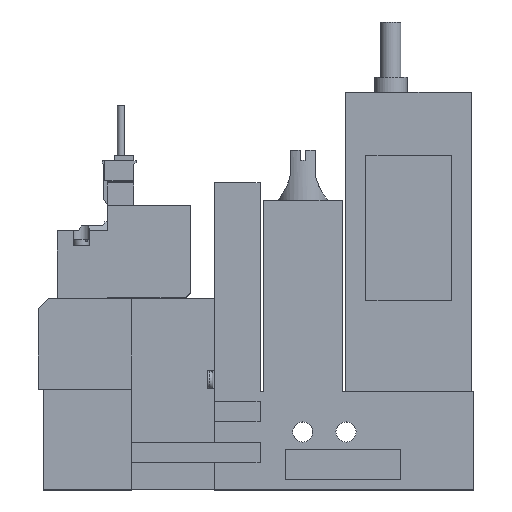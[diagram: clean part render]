
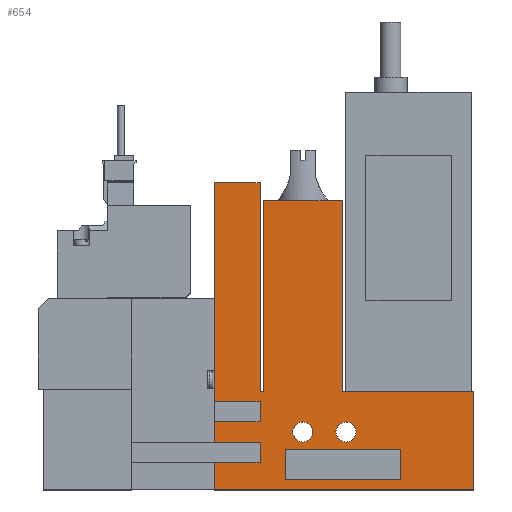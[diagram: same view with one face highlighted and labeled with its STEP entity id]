
A CAD part, top view. The second image highlights one B-rep face of the part: STEP entity #654.
In plain terms, the highlighted planar face has unit normal (0, 0, 1).
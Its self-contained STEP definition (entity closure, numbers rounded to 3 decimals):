
#654=ADVANCED_FACE('',(#1396,#1397,#1398,#1399),#1400,.T.);
#1396=FACE_OUTER_BOUND('',#2182,.T.);
#1397=FACE_BOUND('',#2183,.T.);
#1398=FACE_BOUND('',#2184,.T.);
#1399=FACE_BOUND('',#2185,.T.);
#1400=PLANE('',#2186);
#2182=EDGE_LOOP('',(#4893,#4894,#4895,#4896,#4897,#4898,#4899,#4900,#4901,#4902,#4903,#4904,#4905,#4906,#4907,#4908,#4909,#4910));
#2183=EDGE_LOOP('',(#4911,#4912,#4913,#4914));
#2184=EDGE_LOOP('',(#4915));
#2185=EDGE_LOOP('',(#4916));
#2186=AXIS2_PLACEMENT_3D('',#4917,#4918,#4919);
#4893=ORIENTED_EDGE('',*,*,#5993,.T.);
#4894=ORIENTED_EDGE('',*,*,#5994,.T.);
#4895=ORIENTED_EDGE('',*,*,#5917,.T.);
#4896=ORIENTED_EDGE('',*,*,#5995,.T.);
#4897=ORIENTED_EDGE('',*,*,#5878,.T.);
#4898=ORIENTED_EDGE('',*,*,#5965,.T.);
#4899=ORIENTED_EDGE('',*,*,#5856,.T.);
#4900=ORIENTED_EDGE('',*,*,#5987,.T.);
#4901=ORIENTED_EDGE('',*,*,#5964,.T.);
#4902=ORIENTED_EDGE('',*,*,#5953,.T.);
#4903=ORIENTED_EDGE('',*,*,#5971,.T.);
#4904=ORIENTED_EDGE('',*,*,#5936,.T.);
#4905=ORIENTED_EDGE('',*,*,#5996,.T.);
#4906=ORIENTED_EDGE('',*,*,#5898,.T.);
#4907=ORIENTED_EDGE('',*,*,#5819,.T.);
#4908=ORIENTED_EDGE('',*,*,#5973,.T.);
#4909=ORIENTED_EDGE('',*,*,#5912,.T.);
#4910=ORIENTED_EDGE('',*,*,#5989,.T.);
#4911=ORIENTED_EDGE('',*,*,#5870,.T.);
#4912=ORIENTED_EDGE('',*,*,#5863,.T.);
#4913=ORIENTED_EDGE('',*,*,#5982,.T.);
#4914=ORIENTED_EDGE('',*,*,#5940,.T.);
#4915=ORIENTED_EDGE('',*,*,#5892,.T.);
#4916=ORIENTED_EDGE('',*,*,#5961,.T.);
#4917=CARTESIAN_POINT('',(0.0,0.0,10.0));
#4918=DIRECTION('',(0.0,0.0,1.0));
#4919=DIRECTION('',(1.0,0.0,0.0));
#5819=EDGE_CURVE('',#7196,#7194,#7197,.T.);
#5856=EDGE_CURVE('',#7258,#7263,#7265,.T.);
#5863=EDGE_CURVE('',#7271,#7276,#7278,.T.);
#5870=EDGE_CURVE('',#7284,#7271,#7288,.T.);
#5878=EDGE_CURVE('',#7302,#7300,#7303,.T.);
#5892=EDGE_CURVE('',#7326,#7326,#7327,.T.);
#5898=EDGE_CURVE('',#7335,#7196,#7336,.T.);
#5912=EDGE_CURVE('',#7357,#7355,#7358,.T.);
#5917=EDGE_CURVE('',#7360,#7365,#7367,.T.);
#5936=EDGE_CURVE('',#7398,#7396,#7399,.T.);
#5940=EDGE_CURVE('',#7401,#7284,#7405,.T.);
#5953=EDGE_CURVE('',#7426,#7424,#7427,.T.);
#5961=EDGE_CURVE('',#7439,#7439,#7440,.T.);
#5964=EDGE_CURVE('',#7442,#7426,#7445,.T.);
#5965=EDGE_CURVE('',#7300,#7258,#7446,.T.);
#5971=EDGE_CURVE('',#7424,#7398,#7453,.T.);
#5973=EDGE_CURVE('',#7194,#7357,#7455,.T.);
#5982=EDGE_CURVE('',#7276,#7401,#7467,.T.);
#5987=EDGE_CURVE('',#7263,#7442,#7473,.T.);
#5989=EDGE_CURVE('',#7355,#7474,#7476,.T.);
#5993=EDGE_CURVE('',#7474,#7481,#7482,.T.);
#5994=EDGE_CURVE('',#7481,#7360,#7483,.T.);
#5995=EDGE_CURVE('',#7365,#7302,#7484,.T.);
#5996=EDGE_CURVE('',#7396,#7335,#7485,.T.);
#7194=VERTEX_POINT('',#9368);
#7196=VERTEX_POINT('',#9371);
#7197=LINE('',#9372,#9373);
#7258=VERTEX_POINT('',#9480);
#7263=VERTEX_POINT('',#9487);
#7265=LINE('',#9490,#9491);
#7271=VERTEX_POINT('',#9500);
#7276=VERTEX_POINT('',#9507);
#7278=LINE('',#9510,#9511);
#7284=VERTEX_POINT('',#9521);
#7288=LINE('',#9527,#9528);
#7300=VERTEX_POINT('',#9545);
#7302=VERTEX_POINT('',#9548);
#7303=LINE('',#9549,#9550);
#7326=VERTEX_POINT('',#9585);
#7327=CIRCLE('',#9586,2.0);
#7335=VERTEX_POINT('',#9599);
#7336=LINE('',#9600,#9601);
#7355=VERTEX_POINT('',#9630);
#7357=VERTEX_POINT('',#9633);
#7358=LINE('',#9634,#9635);
#7360=VERTEX_POINT('',#9638);
#7365=VERTEX_POINT('',#9645);
#7367=LINE('',#9648,#9649);
#7396=VERTEX_POINT('',#9695);
#7398=VERTEX_POINT('',#9698);
#7399=LINE('',#9699,#9700);
#7401=VERTEX_POINT('',#9703);
#7405=LINE('',#9709,#9710);
#7424=VERTEX_POINT('',#9740);
#7426=VERTEX_POINT('',#9743);
#7427=LINE('',#9744,#9745);
#7439=VERTEX_POINT('',#9763);
#7440=CIRCLE('',#9764,2.0);
#7442=VERTEX_POINT('',#9766);
#7445=LINE('',#9771,#9772);
#7446=LINE('',#9773,#9774);
#7453=LINE('',#9785,#9786);
#7455=LINE('',#9789,#9790);
#7467=LINE('',#9809,#9810);
#7473=LINE('',#9819,#9820);
#7474=VERTEX_POINT('',#9821);
#7476=LINE('',#9824,#9825);
#7481=VERTEX_POINT('',#9833);
#7482=LINE('',#9834,#9835);
#7483=LINE('',#9836,#9837);
#7484=LINE('',#9838,#9839);
#7485=LINE('',#9840,#9841);
#9368=CARTESIAN_POINT('',(44.75,19.5,10.0));
#9371=CARTESIAN_POINT('',(44.75,57.5,10.0));
#9372=CARTESIAN_POINT('',(44.75,57.5,10.0));
#9373=VECTOR('',#10813,1.0);
#9480=CARTESIAN_POINT('',(44.1,9.5,10.0));
#9487=CARTESIAN_POINT('',(44.1,5.5,10.0));
#9490=CARTESIAN_POINT('',(44.1,0.0,10.0));
#9491=VECTOR('',#10864,1.0);
#9500=CARTESIAN_POINT('',(49.1,8.0,10.0));
#9507=CARTESIAN_POINT('',(72.1,8.0,10.0));
#9510=CARTESIAN_POINT('',(0.0,8.0,10.0));
#9511=VECTOR('',#10871,1.0);
#9521=CARTESIAN_POINT('',(49.1,2.0,10.0));
#9527=CARTESIAN_POINT('',(49.1,0.0,10.0));
#9528=VECTOR('',#10878,1.0);
#9545=CARTESIAN_POINT('',(35.1,9.5,10.0));
#9548=CARTESIAN_POINT('',(35.1,13.5,10.0));
#9549=CARTESIAN_POINT('',(35.1,0.0,10.0));
#9550=VECTOR('',#10888,1.0);
#9585=CARTESIAN_POINT('',(54.6,11.5,10.0));
#9586=AXIS2_PLACEMENT_3D('',#10904,#10905,#10906);
#9599=CARTESIAN_POINT('',(60.45,57.5,10.0));
#9600=CARTESIAN_POINT('',(60.45,57.5,10.0));
#9601=VECTOR('',#10912,1.0);
#9630=CARTESIAN_POINT('',(44.1,61.0,10.0));
#9633=CARTESIAN_POINT('',(44.1,19.5,10.0));
#9634=CARTESIAN_POINT('',(44.1,19.5,10.0));
#9635=VECTOR('',#10930,1.0);
#9638=CARTESIAN_POINT('',(44.1,17.5,10.0));
#9645=CARTESIAN_POINT('',(44.1,13.5,10.0));
#9648=CARTESIAN_POINT('',(44.1,0.0,10.0));
#9649=VECTOR('',#10935,1.0);
#9695=CARTESIAN_POINT('',(60.45,19.5,10.0));
#9698=CARTESIAN_POINT('',(86.6,19.5,10.0));
#9699=CARTESIAN_POINT('',(86.6,19.5,10.0));
#9700=VECTOR('',#10954,1.0);
#9703=CARTESIAN_POINT('',(72.1,2.0,10.0));
#9709=CARTESIAN_POINT('',(0.0,2.0,10.0));
#9710=VECTOR('',#10958,1.0);
#9740=CARTESIAN_POINT('',(86.6,0.0,10.0));
#9743=CARTESIAN_POINT('',(35.1,0.0,10.0));
#9744=CARTESIAN_POINT('',(18.6,0.0,10.0));
#9745=VECTOR('',#10971,1.0);
#9763=CARTESIAN_POINT('',(63.2,11.5,10.0));
#9764=AXIS2_PLACEMENT_3D('',#10981,#10982,#10983);
#9766=CARTESIAN_POINT('',(35.1,5.5,10.0));
#9771=CARTESIAN_POINT('',(35.1,0.0,10.0));
#9772=VECTOR('',#10986,1.0);
#9773=CARTESIAN_POINT('',(0.0,9.5,10.0));
#9774=VECTOR('',#10987,1.0);
#9785=CARTESIAN_POINT('',(86.6,0.0,10.0));
#9786=VECTOR('',#10995,1.0);
#9789=CARTESIAN_POINT('',(44.75,19.5,10.0));
#9790=VECTOR('',#10997,1.0);
#9809=CARTESIAN_POINT('',(72.1,0.0,10.0));
#9810=VECTOR('',#11008,1.0);
#9819=CARTESIAN_POINT('',(0.0,5.5,10.0));
#9820=VECTOR('',#11015,1.0);
#9821=CARTESIAN_POINT('',(35.1,61.0,10.0));
#9824=CARTESIAN_POINT('',(44.1,61.0,10.0));
#9825=VECTOR('',#11017,1.0);
#9833=CARTESIAN_POINT('',(35.1,17.5,10.0));
#9834=CARTESIAN_POINT('',(35.1,61.0,10.0));
#9835=VECTOR('',#11021,1.0);
#9836=CARTESIAN_POINT('',(0.0,17.5,10.0));
#9837=VECTOR('',#11022,1.0);
#9838=CARTESIAN_POINT('',(0.0,13.5,10.0));
#9839=VECTOR('',#11023,1.0);
#9840=CARTESIAN_POINT('',(60.45,19.5,10.0));
#9841=VECTOR('',#11024,1.0);
#10813=DIRECTION('',(0.0,-1.0,0.0));
#10864=DIRECTION('',(0.0,-1.0,0.0));
#10871=DIRECTION('',(1.0,0.0,0.0));
#10878=DIRECTION('',(0.0,1.0,0.0));
#10888=DIRECTION('',(0.0,-1.0,0.0));
#10904=CARTESIAN_POINT('',(52.6,11.5,10.0));
#10905=DIRECTION('',(0.0,0.0,-1.0));
#10906=DIRECTION('',(1.0,0.0,0.0));
#10912=DIRECTION('',(-1.0,0.0,0.0));
#10930=DIRECTION('',(0.0,1.0,0.0));
#10935=DIRECTION('',(0.0,-1.0,0.0));
#10954=DIRECTION('',(-1.0,0.0,0.0));
#10958=DIRECTION('',(-1.0,0.0,0.0));
#10971=DIRECTION('',(1.0,0.0,0.0));
#10981=CARTESIAN_POINT('',(61.2,11.5,10.0));
#10982=DIRECTION('',(0.0,0.0,-1.0));
#10983=DIRECTION('',(1.0,0.0,0.0));
#10986=DIRECTION('',(0.0,-1.0,0.0));
#10987=DIRECTION('',(1.0,0.0,0.0));
#10995=DIRECTION('',(0.0,1.0,0.0));
#10997=DIRECTION('',(-1.0,0.0,0.0));
#11008=DIRECTION('',(0.0,-1.0,0.0));
#11015=DIRECTION('',(-1.0,0.0,0.0));
#11017=DIRECTION('',(-1.0,0.0,0.0));
#11021=DIRECTION('',(0.0,-1.0,0.0));
#11022=DIRECTION('',(1.0,0.0,0.0));
#11023=DIRECTION('',(-1.0,0.0,0.0));
#11024=DIRECTION('',(0.0,1.0,0.0));
